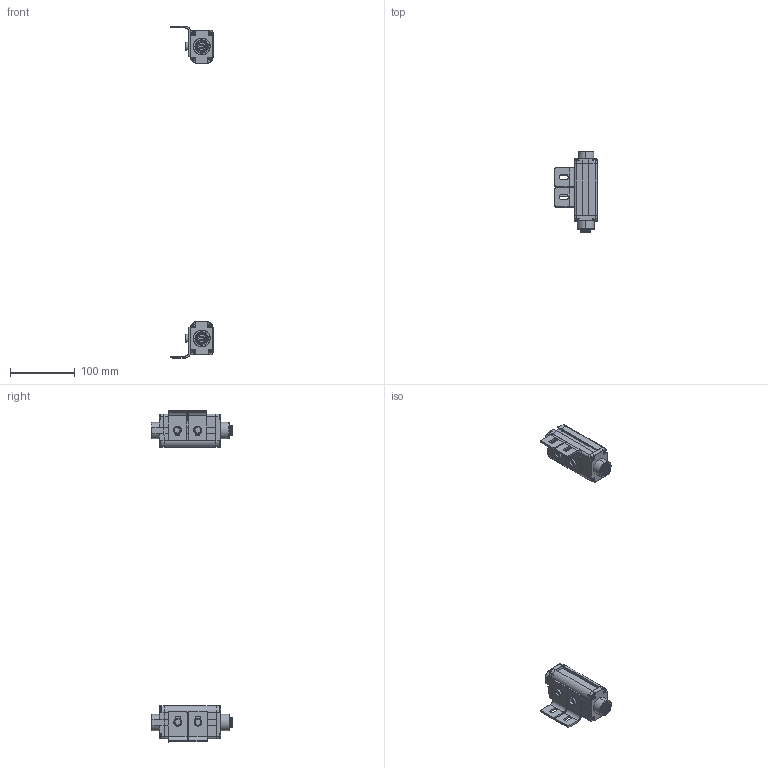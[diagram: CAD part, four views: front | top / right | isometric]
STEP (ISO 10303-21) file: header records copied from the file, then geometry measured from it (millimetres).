
FILE_DESCRIPTION (( 'STEP AP214' ), '1' );
FILE_NAME ('esn0420.STEP', '2018-03-09T00:05:04', ( '' ), ( '' ), 'SwSTEP 2.0', 'SolidWorks 2017', '' );
FILE_SCHEMA (( 'AUTOMOTIVE_DESIGN' ));
Length unit declared in the file: millimetre
Products named in the file (12): lx0420; pcb0420; esndg20420; zj0420; esn0420; esndg10420; m6-ls0420; esndg1z0420; lgp0420; esn20420; hkct10420; hk0420
Assembly tree (40 placements, depth 2):
  esn0420
    esn20420  x2
    esndg10420
    pcb0420  x2
    esndg20420  x2
    lgp0420  x2
    hkct10420  x2
    lx0420  x16
    hk0420  x4
    zj0420  x4
    m6-ls0420  x4
    esndg1z0420
Bounding box: 64.8 x 125.32 x 511.55 mm (x, y, z)
Volume: 195471.6 mm3; surface area: 138213.2 mm2
Topology: 40 solids, 40 shells, 2103 faces, 5571 edges, 3598 vertices
Faces by surface type: cylinder 1009, plane 706, bspline 388
Entity records: 183466 total; most frequent: CARTESIAN_POINT 166054, ORIENTED_EDGE 3774, DIRECTION 3196, EDGE_CURVE 1887, VERTEX_POINT 1208, AXIS2_PLACEMENT_3D 1133, LINE 930, VECTOR 930
